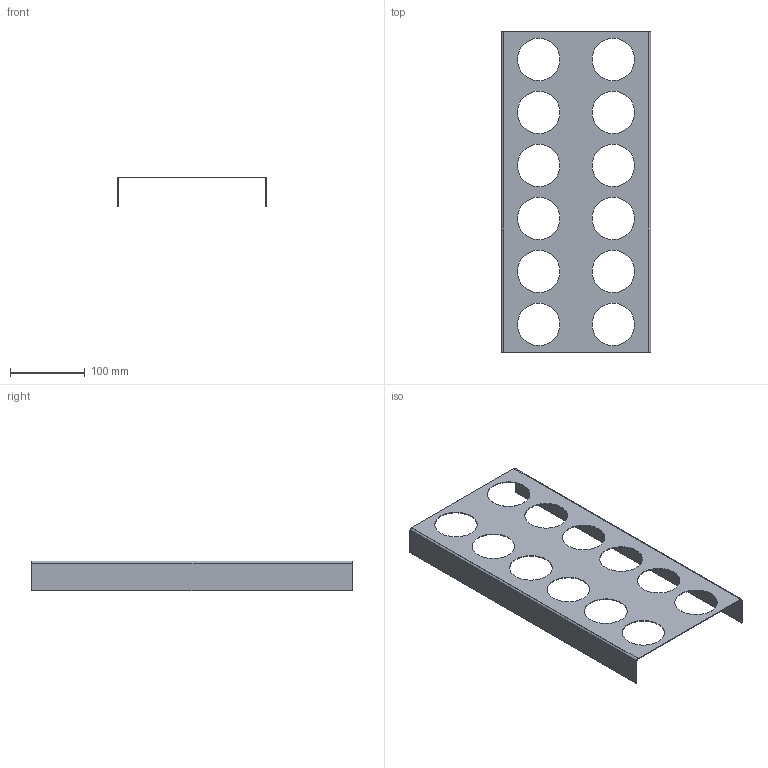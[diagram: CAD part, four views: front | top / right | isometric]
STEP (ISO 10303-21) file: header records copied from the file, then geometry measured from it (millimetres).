
FILE_DESCRIPTION (( 'STEP AP214' ), '1' );
FILE_NAME ('Gewuerzeinsatz_68324-01.STEP', '2010-10-25T13:51:27', ( 'grass' ), ( '' ), 'SwSTEP 2.0', 'SolidWorks 2010', '' );
FILE_SCHEMA (( 'AUTOMOTIVE_DESIGN' ));
Length unit declared in the file: millimetre
Products named in the file (1): Gewuerzeinsatz_68324-01
Bounding box: 200 x 429 x 40 mm (x, y, z)
Volume: 87720.3 mm3; surface area: 178999.1 mm2
Topology: 1 solids, 1 shells, 38 faces, 108 edges, 72 vertices
Faces by surface type: cylinder 28, plane 10
Entity records: 1350 total; most frequent: DIRECTION 242, CARTESIAN_POINT 219, ORIENTED_EDGE 216, EDGE_CURVE 108, AXIS2_PLACEMENT_3D 95, VERTEX_POINT 72, EDGE_LOOP 62, CIRCLE 56
